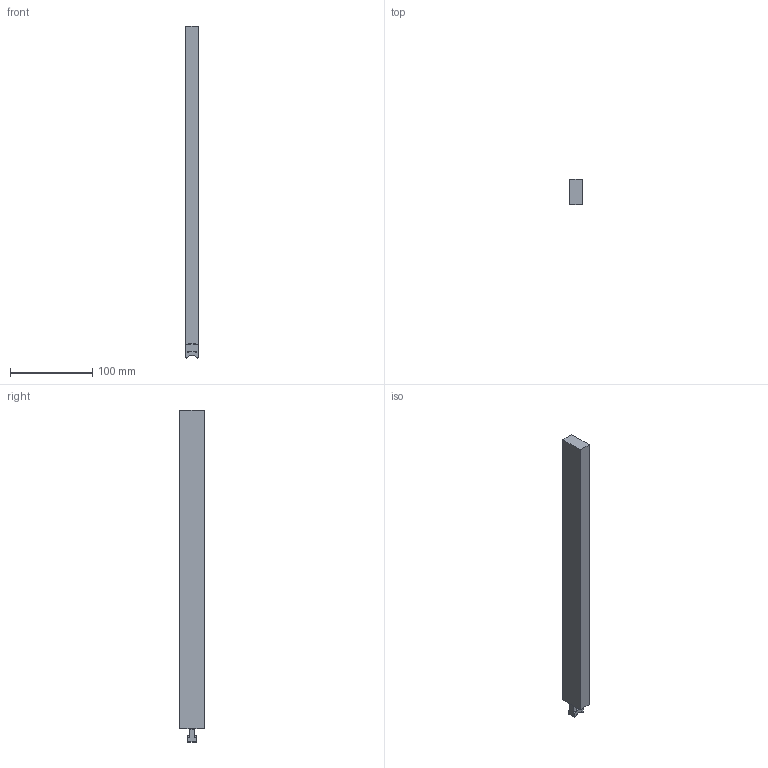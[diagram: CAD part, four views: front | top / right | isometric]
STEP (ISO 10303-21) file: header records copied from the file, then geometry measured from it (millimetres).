
FILE_DESCRIPTION (( 'STEP AP214' ), '1' );
FILE_NAME ('CBMM15X30L400.STEP', '2011-08-03T19:28:06', ( '' ), ( '' ), 'SwSTEP 2.0', 'SolidWorks 2010', '' );
FILE_SCHEMA (( 'AUTOMOTIVE_DESIGN' ));
Length unit declared in the file: millimetre
Products named in the file (1): CBMM15X30L400
Bounding box: 15.25 x 30.25 x 403 mm (x, y, z)
Volume: 179707.9 mm3; surface area: 36912.4 mm2
Topology: 1 solids, 1 shells, 38 faces, 104 edges, 68 vertices
Faces by surface type: torus 16, cylinder 11, plane 11
Entity records: 1304 total; most frequent: CARTESIAN_POINT 295, DIRECTION 212, ORIENTED_EDGE 208, EDGE_CURVE 104, AXIS2_PLACEMENT_3D 89, VERTEX_POINT 68, CIRCLE 50, EDGE_LOOP 38
